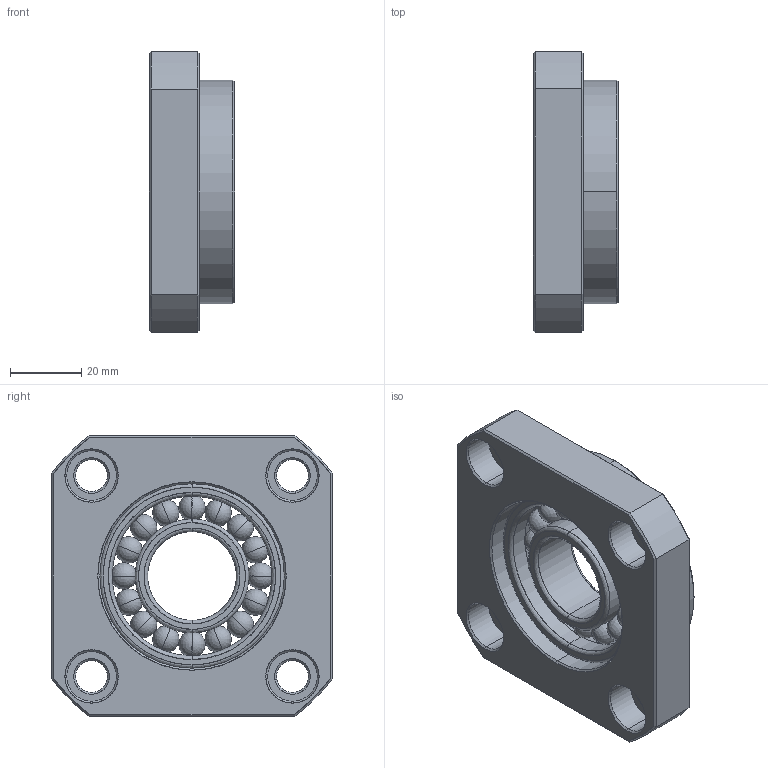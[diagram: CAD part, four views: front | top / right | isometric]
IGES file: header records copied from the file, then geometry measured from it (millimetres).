
Start section: SolidWorks IGES file using analytic representation for surfaces
Bounding box: 24 x 79 x 79 mm (x, y, z)
Surface area: 28271.7 mm2 (no closed solid volume)
Topology: 0 solids, 0 shells, 149 faces, 1792 edges, 1728 vertices
Faces by surface type: revolution 104, bspline 45
